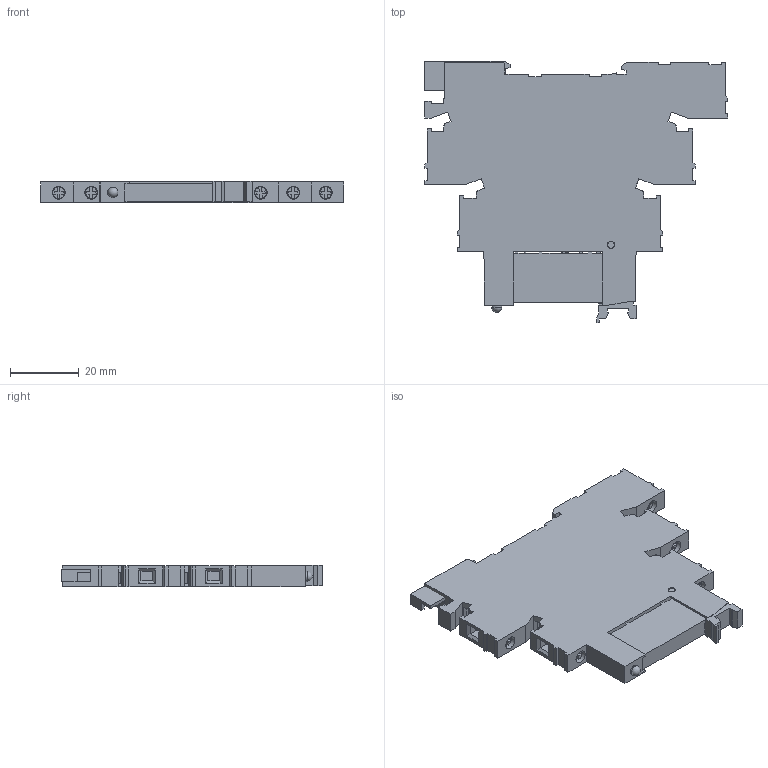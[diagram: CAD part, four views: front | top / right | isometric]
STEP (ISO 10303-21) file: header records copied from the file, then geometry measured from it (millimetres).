
FILE_DESCRIPTION(/* description */ (''),/* implementation_level */ '2;1');
FILE_NAME(/* name */ '41f-c2.stp',/* time_stamp */ '2022-06-17T09:53:43+08:00',/* author */ (''),/* organization */ (''),/* preprocessor_version */ 'ST-DEVELOPER v11',/* originating_system */ 'SIEMENS UGS NX 6.0',/* authorisation */ '');
FILE_SCHEMA (('CONFIG_CONTROL_DESIGN'));
Length unit declared in the file: millimetre
Products named in the file (1): 41f-c2
Bounding box: 88.65 x 76.3 x 6.3 mm (x, y, z)
Volume: 27311.9 mm3; surface area: 15406.9 mm2
Topology: 14 solids, 14 shells, 484 faces, 1262 edges, 834 vertices
Faces by surface type: plane 435, cylinder 33, bspline 15, sphere 1
Full cylindrical faces by diameter (mm): 0.4 x2, 1.95 x2, 2.069 x1, 2.5 x5, 3 x1, 3.8 x5
Entity records: 27529 total; most frequent: CARTESIAN_POINT 15802, ORIENTED_EDGE 2456, DIRECTION 2199, EDGE_CURVE 1228, LINE 1073, VECTOR 1073, VERTEX_POINT 823, AXIS2_PLACEMENT_3D 563
